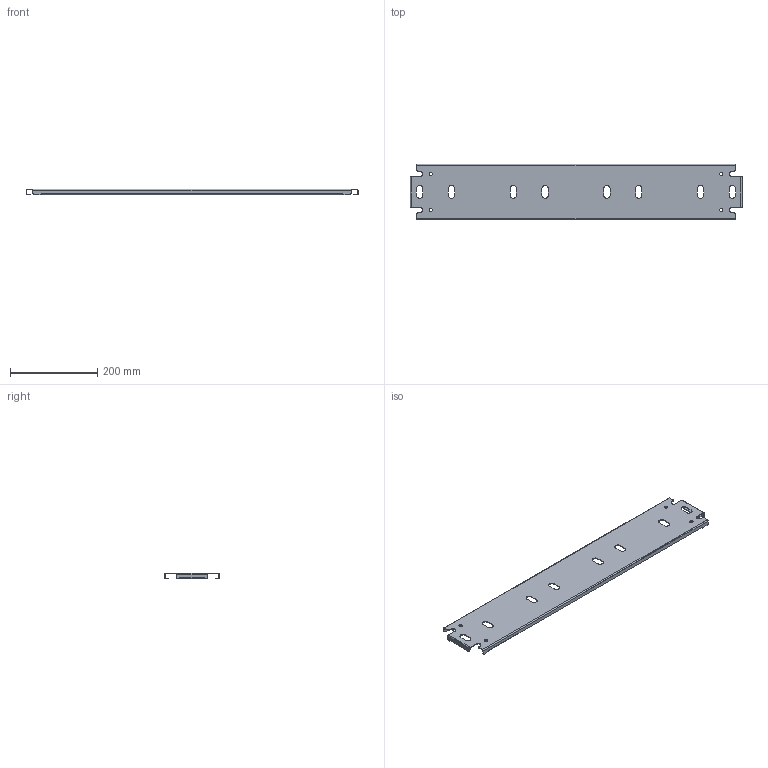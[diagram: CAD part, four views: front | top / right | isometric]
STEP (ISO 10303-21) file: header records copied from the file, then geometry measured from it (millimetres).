
FILE_DESCRIPTION(/* description */ ('1412BTSSCU 29.975" x 56" Inner Panel'),/* implementation_level */ '2;1');
FILE_NAME(/* name */ 'C:\Vault_Workspace\Inventor_Dwg\BoxCad\Result\1412BTSSCU072004\e-mail\3D\1412BTSSCU072004IP1.stp',/* time_stamp */ '2022-09-20T18:45:17-04:00',/* author */ ('BoxCad'),/* organization */ (''),/* preprocessor_version */ 'ST-DEVELOPER v18.1',/* originating_system */ 'Autodesk Inventor 2020',/* authorisation */ '');
FILE_SCHEMA (('AUTOMOTIVE_DESIGN { 1 0 10303 214 3 1 1 }'));
Length unit declared in the file: inch
Products named in the file (2): 1412BTSSCU072004IP1; 1412BTSSCU072004IP1-P
Assembly tree (1 placements, depth 2):
  1412BTSSCU072004IP1
    1412BTSSCU072004IP1-P
Bounding box: 761.37 x 127 x 13 mm (x, y, z)
Volume: 207492.8 mm3; surface area: 244961.1 mm2
Topology: 1 solids, 1 shells, 142 faces, 420 edges, 280 vertices
Faces by surface type: plane 82, cylinder 60
Full cylindrical faces by diameter (mm): 7.366 x4
Entity records: 4881 total; most frequent: CARTESIAN_POINT 845, ORIENTED_EDGE 840, DIRECTION 830, EDGE_CURVE 420, LINE 300, VECTOR 300, VERTEX_POINT 280, AXIS2_PLACEMENT_3D 265
